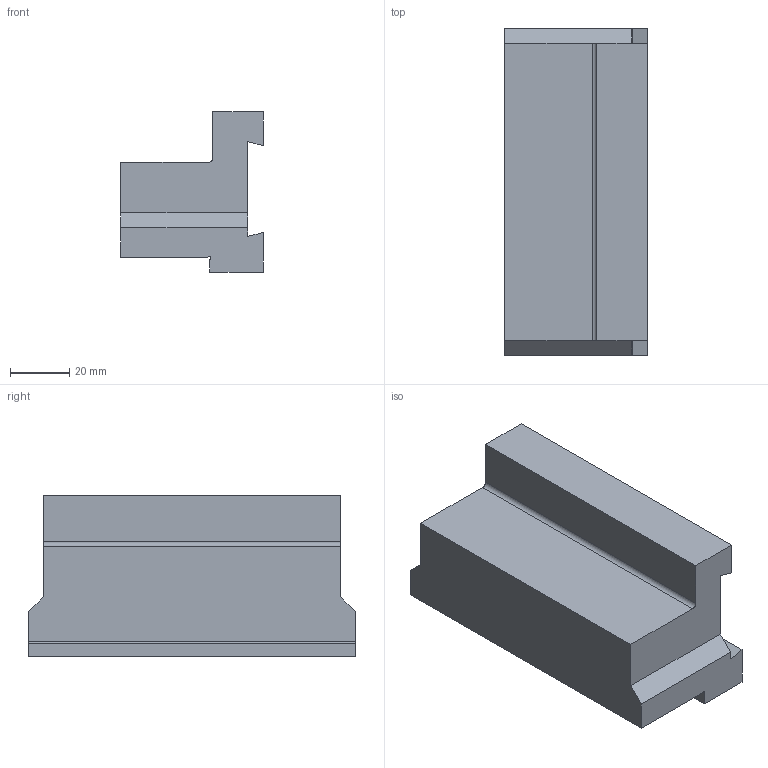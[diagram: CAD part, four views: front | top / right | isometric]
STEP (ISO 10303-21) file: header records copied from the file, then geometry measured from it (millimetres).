
FILE_DESCRIPTION(/* description */ (''),/* implementation_level */ '2;1');
FILE_NAME(/* name */ 'SMBB3232-HAAS.stp',/* time_stamp */ '2021-09-27T17:20:58+09:00',/* author */ (''),/* organization */ (''),/* preprocessor_version */ 'ST-DEVELOPER v16.7',/* originating_system */ 'SIEMENS PLM Software NX 1946',/* authorisation */ '');
FILE_SCHEMA (('AUTOMOTIVE_DESIGN { 1 0 10303 214 3 1 1 1 }'));
Length unit declared in the file: millimetre
Products named in the file (1): user41BC2A232ght
Bounding box: 48 x 110 x 54 mm (x, y, z)
Volume: 181950.8 mm3; surface area: 26338.6 mm2
Topology: 1 solids, 1 shells, 23 faces, 63 edges, 42 vertices
Faces by surface type: plane 20, cylinder 3
Entity records: 896 total; most frequent: CARTESIAN_POINT 129, ORIENTED_EDGE 126, DIRECTION 117, EDGE_CURVE 63, LINE 57, VECTOR 57, VERTEX_POINT 42, AXIS2_PLACEMENT_3D 30
